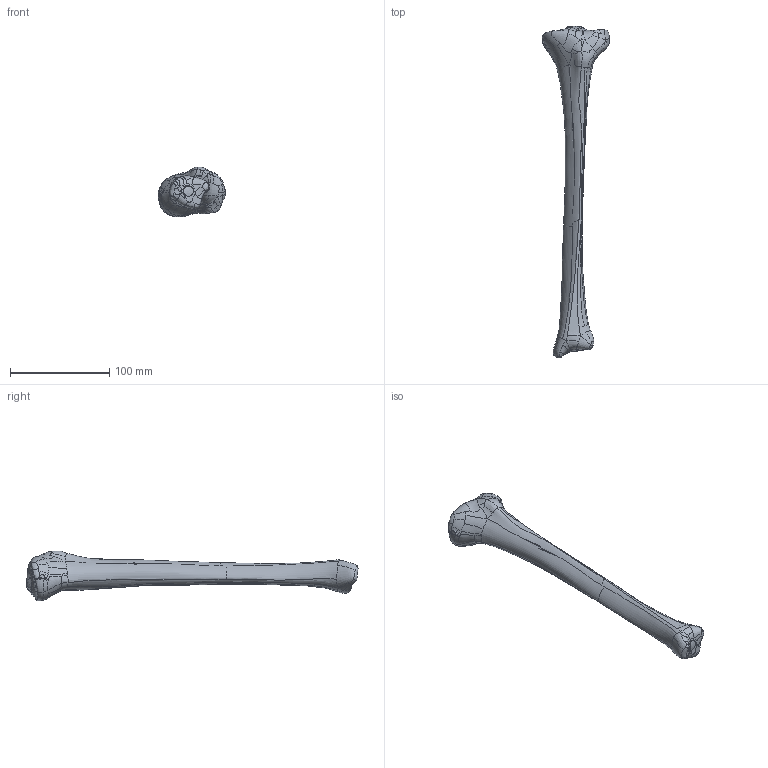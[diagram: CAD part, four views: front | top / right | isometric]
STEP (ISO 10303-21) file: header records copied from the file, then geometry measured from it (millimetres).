
FILE_DESCRIPTION (( 'STEP AP203' ), '1' );
FILE_NAME ('3410.STEP', '2025-06-11T20:23:00', ( '' ), ( '' ), 'SwSTEP 2.0', 'SolidWorks 2024', '' );
FILE_SCHEMA (( 'CONFIG_CONTROL_DESIGN' ));
Products named in the file (1): 3410
Bounding box: 67.96 x 334.26 x 50.31 mm (x, y, z)
Volume: 196807.9 mm3; surface area: 31249.7 mm2
Topology: 1 solids, 1 shells, 406 faces, 1070 edges, 681 vertices
Faces by surface type: bspline 403, plane 3
Entity records: 101776 total; most frequent: CARTESIAN_POINT 95068, ORIENTED_EDGE 2140, B_SPLINE_CURVE_WITH_KNOTS 1070, EDGE_CURVE 1070, VERTEX_POINT 681, EDGE_LOOP 421, ADVANCED_FACE 406, FACE_OUTER_BOUND 406
